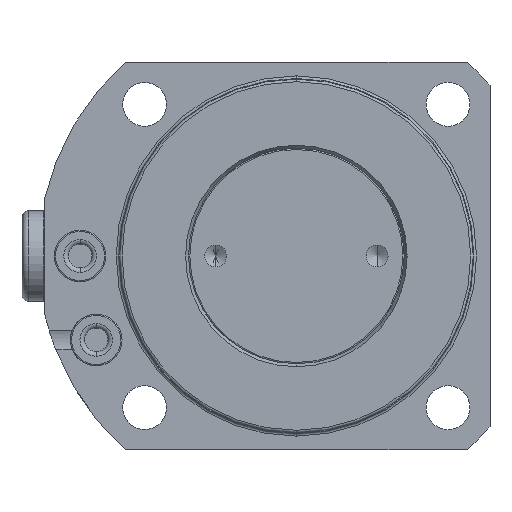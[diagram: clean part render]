
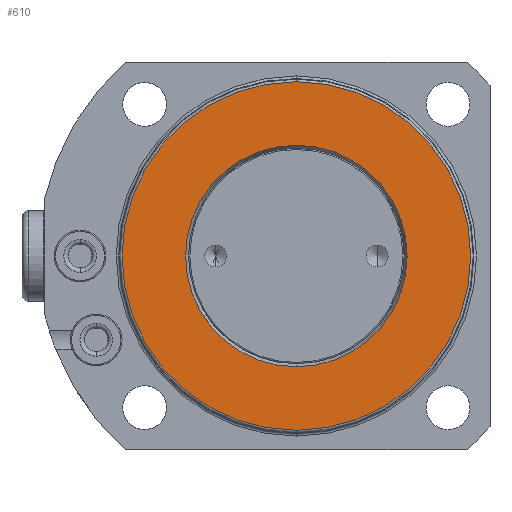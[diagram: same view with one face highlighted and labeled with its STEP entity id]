
A CAD part, front view. The second image highlights one B-rep face of the part: STEP entity #610.
In plain terms, the highlighted planar face has unit normal (0, -1, 0).
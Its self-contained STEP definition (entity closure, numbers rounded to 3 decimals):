
#325=PLANE('',#4594);
#392=FACE_BOUND('',#1218,.T.);
#393=FACE_BOUND('',#1219,.T.);
#610=ADVANCED_FACE('',(#392,#393),#325,.T.);
#1218=EDGE_LOOP('',(#2171,#2172));
#1219=EDGE_LOOP('',(#2173,#2174));
#2171=ORIENTED_EDGE('',*,*,#3622,.T.);
#2172=ORIENTED_EDGE('',*,*,#3690,.T.);
#2173=ORIENTED_EDGE('',*,*,#3617,.F.);
#2174=ORIENTED_EDGE('',*,*,#3691,.F.);
#3231=VERTEX_POINT('',#6908);
#3232=VERTEX_POINT('',#6909);
#3235=VERTEX_POINT('',#6917);
#3236=VERTEX_POINT('',#6919);
#3617=EDGE_CURVE('',#3231,#3232,#4155,.T.);
#3622=EDGE_CURVE('',#3236,#3235,#4159,.T.);
#3690=EDGE_CURVE('',#3235,#3236,#4195,.T.);
#3691=EDGE_CURVE('',#3232,#3231,#4196,.T.);
#4155=CIRCLE('',#4535,27.);
#4159=CIRCLE('',#4540,17.162);
#4195=CIRCLE('',#4591,17.162);
#4196=CIRCLE('',#4593,27.);
#4535=AXIS2_PLACEMENT_3D('',#6907,#5307,#5308);
#4540=AXIS2_PLACEMENT_3D('',#6918,#5318,#5319);
#4591=AXIS2_PLACEMENT_3D('',#7095,#5439,#5440);
#4593=AXIS2_PLACEMENT_3D('',#7097,#5443,#5444);
#4594=AXIS2_PLACEMENT_3D('',#7098,#5445,#5446);
#5307=DIRECTION('',(0.,1.,0.));
#5308=DIRECTION('',(0.,0.,1.));
#5318=DIRECTION('',(0.,1.,0.));
#5319=DIRECTION('',(0.,0.,1.));
#5439=DIRECTION('',(0.,1.,0.));
#5440=DIRECTION('',(0.,0.,1.));
#5443=DIRECTION('',(0.,1.,0.));
#5444=DIRECTION('',(0.,0.,1.));
#5445=DIRECTION('',(0.,-1.,0.));
#5446=DIRECTION('',(0.,0.,1.));
#6907=CARTESIAN_POINT('',(0.,1.087,0.));
#6908=CARTESIAN_POINT('',(0.,1.087,27.));
#6909=CARTESIAN_POINT('',(0.,1.087,-27.));
#6917=CARTESIAN_POINT('',(0.,1.087,17.162));
#6918=CARTESIAN_POINT('',(0.,1.087,0.));
#6919=CARTESIAN_POINT('',(0.,1.087,-17.162));
#7095=CARTESIAN_POINT('',(0.,1.087,0.));
#7097=CARTESIAN_POINT('',(0.,1.087,0.));
#7098=CARTESIAN_POINT('',(0.,1.087,0.));
